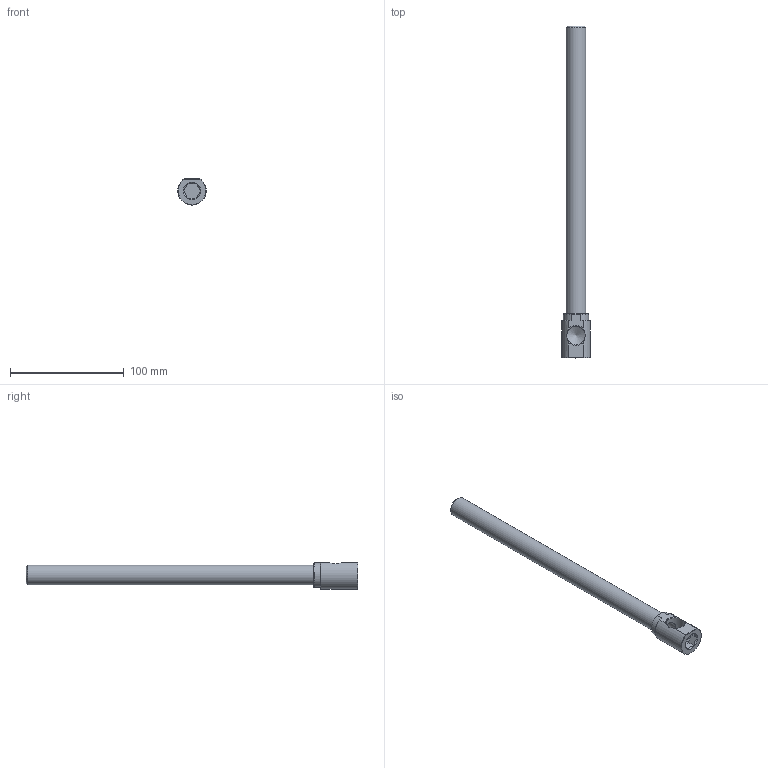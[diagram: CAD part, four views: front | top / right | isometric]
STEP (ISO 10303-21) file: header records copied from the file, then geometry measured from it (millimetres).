
FILE_DESCRIPTION(/* description */ (''),/* implementation_level */ '2;1');
FILE_NAME(/* name */ 'C:/Users/drich/Desktop/EKL38 X 11.5 v2.step',/* time_stamp */ '2019-11-18T14:42:19-06:00',/* author */ (''),/* organization */ (''),/* preprocessor_version */ 'ST-DEVELOPER v18',/* originating_system */ 'Autodesk Translation Framework v8.12.0.6',/* authorisation */ '');
FILE_SCHEMA (('AUTOMOTIVE_DESIGN { 1 0 10303 214 3 1 1 }'));
Length unit declared in the file: inch
Products named in the file (2): EKL38 X 11.5; EKL38 X 11-1/2
Assembly tree (1 placements, depth 2):
  EKL38 X 11.5
    EKL38 X 11-1/2
Bounding box: 25.01 x 292.1 x 23.03 mm (x, y, z)
Volume: 42953.6 mm3; surface area: 28597.6 mm2
Topology: 1 solids, 1 shells, 43 faces, 116 edges, 76 vertices
Faces by surface type: plane 21, cone 11, cylinder 11
Full cylindrical faces by diameter (mm): 11.887 x1, 16.231 x1, 17.328 x1
Entity records: 1463 total; most frequent: CARTESIAN_POINT 345, ORIENTED_EDGE 230, DIRECTION 218, EDGE_CURVE 115, AXIS2_PLACEMENT_3D 81, VERTEX_POINT 76, LINE 56, VECTOR 56
